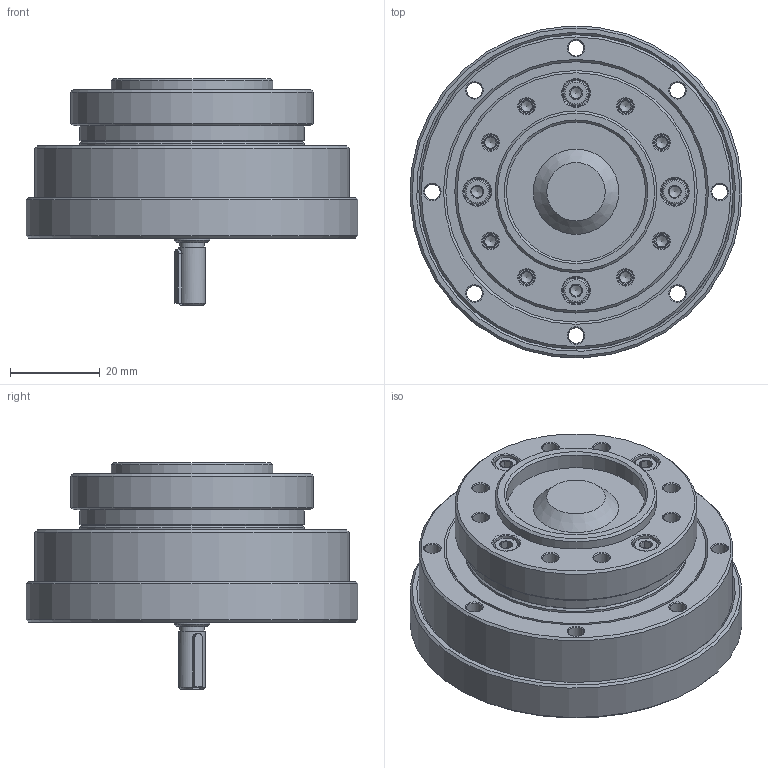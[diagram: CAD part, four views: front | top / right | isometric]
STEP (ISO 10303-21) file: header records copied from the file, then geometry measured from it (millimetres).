
FILE_DESCRIPTION(/* description */ (''),/* implementation_level */ '2;1');
FILE_NAME(/* name */ 'LHT-14-XX-U-IV-有键槽.stp',/* time_stamp */ '2023-07-29T10:59:38+08:00',/* author */ (''),/* organization */ (''),/* preprocessor_version */ 'ST-DEVELOPER v16.7',/* originating_system */ 'SIEMENS PLM Software NX 12.0',/* authorisation */ '');
FILE_SCHEMA (('AUTOMOTIVE_DESIGN { 1 0 10303 214 3 1 1 1 }'));
Length unit declared in the file: millimetre
Products named in the file (20): EB253406-14KC-46; EB253406-14KC-01; TC-50x58x4; C型平键2x2x12; SC-8x18x4.5; GB-T276_60000_2Z-1994,619I5_2Z; GB-T276_60000_2Z-1994,619I8_2Z; LHT-14-XX-IV-带键; LHT-14-00-IV下壳体; LHT-14-00-IV上壳体; 内六角平圆头螺钉M3x10; GB-T70.1-2000,M3x12; 内六角平圆头螺钉M3x8(4.5mm头径); O-38x0.5; O-54x1.5; 刚轮LHT-14-III; 柔轮LHT-14; EB253406-14KC; 交叉轴承LHT-14; LHT-14-XX-U-IV-有键槽
Assembly tree (26 placements, depth 3):
  LHT-14-XX-U-IV-有键槽
    交叉轴承LHT-14
      TC-50x58x4
    柔轮LHT-14
    刚轮LHT-14-III
    EB253406-14KC
      EB253406-14KC-01
      EB253406-14KC-46
    O-54x1.5
    O-38x0.5
    内六角平圆头螺钉M3x8(4.5mm头径)  x2
    GB-T70.1-2000,M3x12  x4
    内六角平圆头螺钉M3x10  x4
    LHT-14-00-IV上壳体
    LHT-14-00-IV下壳体
    LHT-14-XX-IV-带键
    GB-T276_60000_2Z-1994,619I8_2Z
    GB-T276_60000_2Z-1994,619I5_2Z
    SC-8x18x4.5
    C型平键2x2x12
Bounding box: 73.93 x 73.93 x 50.5 mm (x, y, z)
Volume: 81550.8 mm3; surface area: 71953.2 mm2
Topology: 70 solids, 71 shells, 1015 faces, 2276 edges, 1386 vertices
Faces by surface type: cone 310, plane 305, cylinder 250, torus 108, sphere 38, revolution 2, bspline 2
Full cylindrical faces by diameter (mm): 2.5 x29, 2.874 x10, 3.5 x58, 4.437 x1, 4.5 x2, 4.8 x2, 4.937 x1, 5 x1, 5.5 x9, 6 x9, 6.937 x1, 7.5 x1, 7.6 x1, 7.667 x2, 8 x4, 8.733 x2, 10.333 x2, 11 x2, 11.667 x2, 13 x2, 13.133 x2, 15.333 x2, 17 x1, 18 x2, 19 x3, 20 x1, 24 x1, 25 x1, 25.007 x1, 25.07 x1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
Entity records: 25908 total; most frequent: CARTESIAN_POINT 8258, DIRECTION 3627, ORIENTED_EDGE 2368, AXIS2_PLACEMENT_3D 1722, EDGE_LOOP 1440, FACE_BOUND 1278, EDGE_CURVE 1184, VERTEX_POINT 1032
